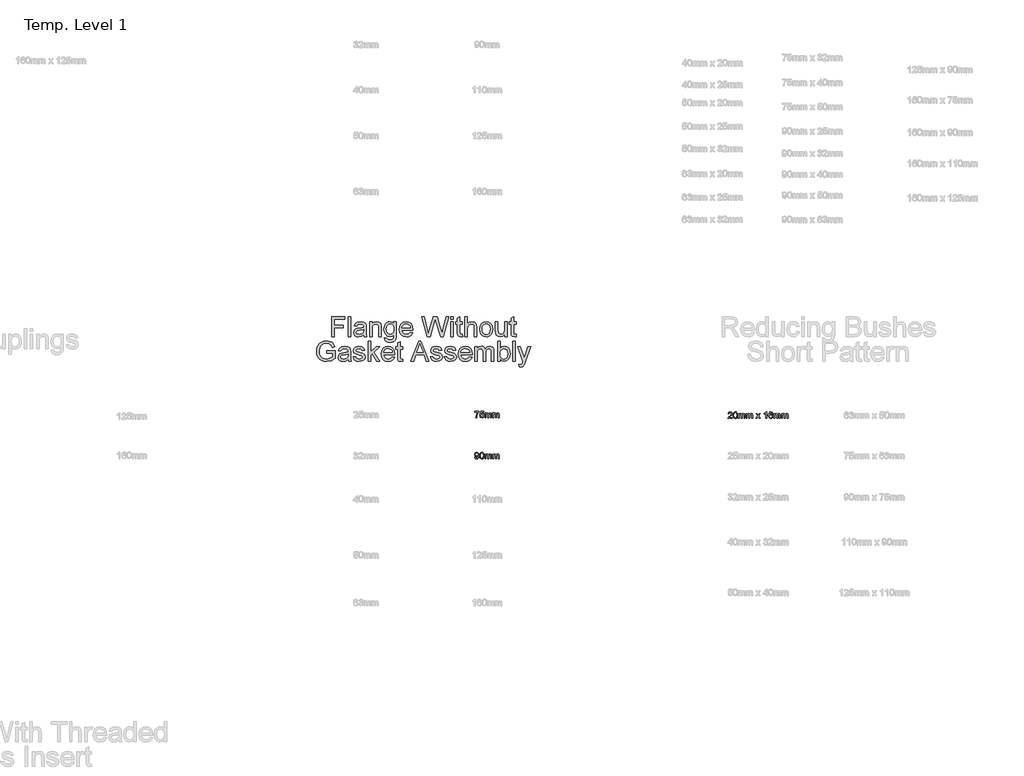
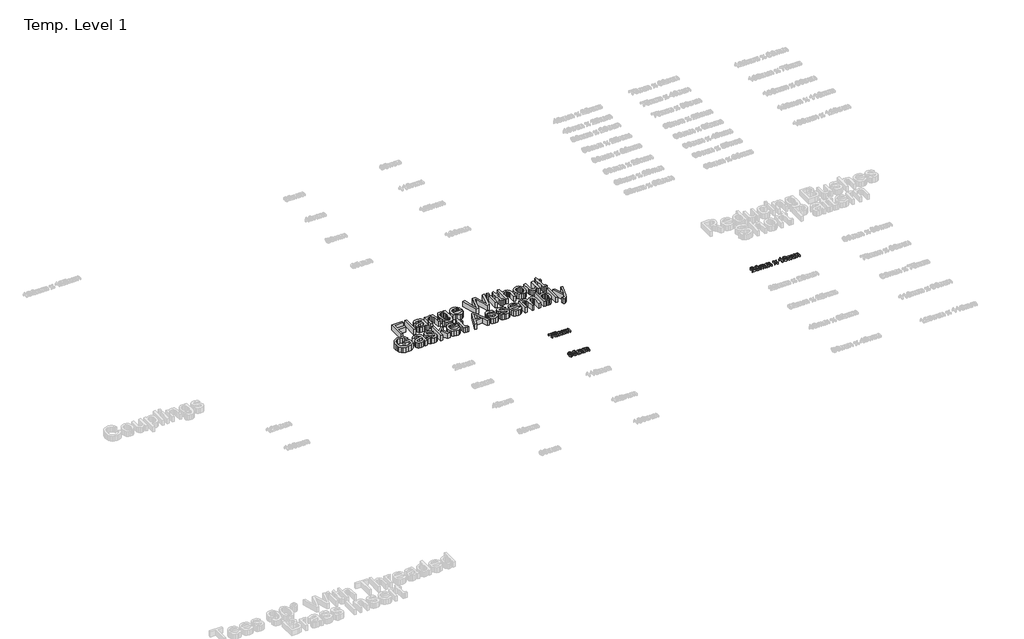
# One storey, part 33 of 62: 4 proxies.
"""IFC4 building model written with IfcOpenShell, lengths in millimetres."""

from ifc_helpers import new_model, si_unit, origin, origin_with_axes, place, context, project, spatial, polyline, outline, extrude, element, save

model = new_model("IFC4")

# Units and contexts
model_context = context("Model", 3, world=origin())
ifc_project = project(units=[si_unit("LENGTHUNIT", "METRE", prefix="MILLI")], contexts=[model_context])

# Site, building, storey
site = spatial("IfcSite", under=ifc_project)
building = spatial("IfcBuilding", under=site)
storey = spatial("IfcBuildingStorey", under=building, Name="Temp. Level 1", Elevation=0.0)

# Proxies
placement = place(None, origin())
element("IfcBuildingElementProxy", 1, Name="150mm Arial", ObjectType="150mm Arial", at=placement, inside=storey, context=model_context, shape_type="SweptSolid", body=[
    extrude(outline(polyline([(20741.8868673, -6979.0446709), (20741.8868673, -6831.3523632), (20841.1176365, -6831.3523632), (20841.1176365, -6849.8139016), (20760.3484058, -6849.8139016), (20760.3484058, -6893.6600555), (20829.579175, -6893.6600555), (20829.579175, -6912.1215939), (20760.3484058, -6912.1215939), (20760.3484058, -6979.0446709), (20741.8868673, -6979.0446709)])), origin_with_axes(), (0.0, 0.0, 1.0), 50.0),
    extrude(outline(polyline([(20864.1945596, -6979.0446709), (20864.1945596, -6831.3523632), (20882.6560981, -6831.3523632), (20882.6560981, -6979.0446709), (20864.1945596, -6979.0446709)])), origin_with_axes(), (0.0, 0.0, 1.0), 50.0),
    extrude(outline(polyline([(20979.579175, -6965.198517), (20961.6765308, -6977.7105362), (20941.8988865, -6981.3523632), (20926.4707014, -6979.1618584), (20915.0899923, -6972.5903439), (20908.0722639, -6962.6113776), (20905.7330212, -6950.198517), (20909.266675, -6935.5951516), (20918.5515308, -6924.9941901), (20931.4782135, -6918.9364978), (20947.4517712, -6916.1600555), (20979.4710019, -6909.8139016), (20979.579175, -6905.7033247), (20978.3081413, -6897.464142), (20974.4950404, -6892.073517), (20965.9673962, -6888.0711132), (20954.0863865, -6886.7369786), (20935.4085019, -6890.2886612), (20926.5022519, -6902.8908247), (20908.0407135, -6900.5831324), (20916.0274923, -6882.5542862), (20932.1092231, -6871.9893824), (20956.4661942, -6868.2754401), (20978.8399923, -6871.5566901), (20991.4782135, -6879.7958728), (20997.1392712, -6892.3259209), (20998.0407135, -6908.479767), (20998.0407135, -6931.448517), (20998.9782135, -6963.5218343), (21002.6560981, -6979.0446709), (20984.1945596, -6979.0446709), (20979.579175, -6965.198517)]), holes=[polyline([(20979.579175, -6928.2754401), (20949.7955212, -6933.9364978), (20933.9121077, -6936.9292862), (20926.7185981, -6941.7970747), (20924.1945596, -6948.9004401), (20929.6933577, -6958.8884209), (20945.829175, -6962.8908247), (20964.5070596, -6958.4737574), (20976.5503288, -6947.7826516), (20979.4710019, -6933.5038055), (20979.579175, -6928.2754401)])]), origin_with_axes(), (0.0, 0.0, 1.0), 50.0),
    extrude(outline(polyline([(21023.4253288, -6979.0446709), (21023.4253288, -6870.5831324), (21041.8868673, -6870.5831324), (21041.8868673, -6885.7273632), (21056.0034538, -6872.6384209), (21075.2762904, -6868.2754401), (21092.7101846, -6871.7910651), (21104.6092231, -6881.0218343), (21110.1440788, -6894.5975555), (21111.1176365, -6912.4461132), (21111.1176365, -6979.0446709), (21092.6560981, -6979.0446709), (21092.6560981, -6914.9340939), (21090.5286942, -6898.5999593), (21083.0106654, -6889.964142), (21070.3363865, -6886.7369786), (21059.5235861, -6888.5488776), (21050.3063385, -6893.9845747), (21043.9917351, -6904.4863776), (21041.8868673, -6921.4965939), (21041.8868673, -6979.0446709), (21023.4253288, -6979.0446709)])), origin_with_axes(), (0.0, 0.0, 1.0), 50.0),
    extrude(outline(polyline([(21131.8868673, -6988.2754401), (21150.3484058, -6990.5831324), (21156.3339827, -7000.3187093), (21174.2546558, -7004.4292862), (21193.1488865, -6999.7778439), (21202.1633096, -6986.7249593), (21203.4253288, -6965.198517), (21190.4265308, -6975.5831324), (21174.579175, -6979.0446709), (21155.5452207, -6975.0152237), (21141.3520115, -6962.9268824), (21132.5223841, -6945.2045266), (21129.579175, -6924.2730362), (21134.8616269, -6895.6612574), (21141.3249683, -6884.0461733), (21150.1500885, -6875.4148632), (21161.0350043, -6870.0602959), (21173.6777327, -6868.2754401), (21190.1470837, -6872.3139016), (21203.4253288, -6884.4292862), (21203.4253288, -6870.5831324), (21221.8868673, -6870.5831324), (21221.8868673, -6964.2249593), (21220.6248481, -6985.8460531), (21216.8387904, -7000.0843343), (21210.3168553, -7009.5269425), (21200.8472038, -7016.761017), (21188.6371678, -7021.3583728), (21173.8940788, -7022.8908247), (21156.7170957, -7020.7318704), (21143.1909538, -7014.2550074), (21134.5145716, -7003.4422069), (21131.8868673, -6988.2754401)]), holes=[polyline([(21148.0407135, -6923.011017), (21150.0103649, -6939.9446108), (21155.9193192, -6951.5867382), (21164.8030332, -6958.3340338), (21175.6969635, -6960.5831324), (21186.5097639, -6958.3475555), (21195.43855, -6951.6408247), (21201.4286341, -6940.1474353), (21203.4253288, -6923.5518824), (21201.3700404, -6907.5467742), (21195.204175, -6896.0218343), (21186.1446798, -6889.0581925), (21175.4085019, -6886.7369786), (21164.8661341, -6889.0221348), (21156.0274923, -6895.8776036), (21150.0374082, -6907.2312694), (21148.0407135, -6923.011017)])]), origin_with_axes(), (0.0, 0.0, 1.0), 50.0),
    extrude(outline(polyline([(21325.516675, -6946.7369786), (21343.6176365, -6949.0446709), (21337.0957014, -6962.683493), (21326.68855, -6972.8788055), (21312.6305572, -6979.2339737), (21295.1560981, -6981.3523632), (21273.4944394, -6977.6970146), (21256.8267712, -6966.7309689), (21246.1987663, -6949.1663656), (21242.6560981, -6925.7153439), (21246.234824, -6901.4755603), (21256.9710019, -6883.3475555), (21273.4133096, -6872.0434689), (21294.110425, -6868.2754401), (21314.1630091, -6872.0344545), (21330.1861462, -6883.3114978), (21340.6924563, -6901.4034449), (21344.1945596, -6925.6071709), (21344.0863865, -6930.5831324), (21261.1176365, -6930.5831324), (21264.3132495, -6944.402243), (21271.7366269, -6954.5614978), (21282.4502688, -6960.808493), (21295.516675, -6962.8908247), (21313.6176365, -6959.0326516), (21325.516675, -6946.7369786)]), holes=[polyline([(21261.1176365, -6912.1215939), (21325.7330212, -6912.1215939), (21323.236026, -6902.3679882), (21318.3411942, -6895.3908247), (21307.5779731, -6888.9004401), (21294.0383096, -6886.7369786), (21281.5938986, -6888.4632406), (21271.3039346, -6893.6420266), (21264.1509899, -6901.7144425), (21261.1176365, -6912.1215939)])]), origin_with_axes(), (0.0, 0.0, 1.0), 50.0),
    extrude(outline(polyline([(21449.0863865, -6979.0446709), (21408.8099442, -6831.3523632), (21427.8484058, -6831.3523632), (21451.2137904, -6928.4196709), (21458.4253288, -6958.3836132), (21466.141675, -6931.8812093), (21495.4205212, -6831.3523632), (21522.860425, -6831.3523632), (21544.1344635, -6904.2249593), (21559.9637904, -6958.3836132), (21566.9589827, -6929.2850555), (21590.5407135, -6831.3523632), (21609.579175, -6831.3523632), (21569.266675, -6979.0446709), (21549.5431173, -6979.0446709), (21514.1344635, -6865.1023632), (21509.1945596, -6849.2009209), (21503.641675, -6868.3475555), (21471.3700404, -6979.0446709), (21449.0863865, -6979.0446709)])), origin_with_axes(), (0.0, 0.0, 1.0), 50.0),
    extrude(outline(polyline([(21625.7330212, -6849.8139016), (21625.7330212, -6831.3523632), (21644.1945596, -6831.3523632), (21644.1945596, -6849.8139016), (21625.7330212, -6849.8139016)])), origin_with_axes(), (0.0, 0.0, 1.0), 50.0),
    extrude(outline(polyline([(21625.7330212, -6979.0446709), (21625.7330212, -6870.5831324), (21644.1945596, -6870.5831324), (21644.1945596, -6979.0446709), (21625.7330212, -6979.0446709)])), origin_with_axes(), (0.0, 0.0, 1.0), 50.0),
    extrude(outline(polyline([(21711.1176365, -6963.6480362), (21713.4253288, -6979.5855362), (21699.6152327, -6981.3523632), (21684.1464827, -6978.2874593), (21676.4301365, -6970.2465939), (21674.1945596, -6949.2970747), (21674.1945596, -6889.0446709), (21660.3484058, -6889.0446709), (21660.3484058, -6870.5831324), (21674.1945596, -6870.5831324), (21674.1945596, -6844.2249593), (21692.6560981, -6833.3715939), (21692.6560981, -6870.5831324), (21711.1176365, -6870.5831324), (21711.1176365, -6889.0446709), (21692.6560981, -6889.0446709), (21692.6560981, -6948.7562093), (21693.6296558, -6958.2754401), (21696.7847038, -6961.6468343), (21703.0767712, -6962.8908247), (21711.1176365, -6963.6480362)])), origin_with_axes(), (0.0, 0.0, 1.0), 50.0),
    extrude(outline(polyline([(21729.579175, -6979.0446709), (21729.579175, -6831.3523632), (21748.0407135, -6831.3523632), (21748.0407135, -6885.6552478), (21762.4367471, -6872.620392), (21780.1681173, -6868.2754401), (21800.9012904, -6873.0170266), (21813.485425, -6886.1239978), (21817.2714827, -6910.3908247), (21817.2714827, -6979.0446709), (21798.8099442, -6979.0446709), (21798.8099442, -6912.3018824), (21797.3405933, -6900.745392), (21792.9325404, -6892.8307286), (21785.829175, -6888.2604161), (21776.2738865, -6886.7369786), (21761.1476846, -6890.8475555), (21751.0515308, -6901.9893824), (21748.0407135, -6921.4244786), (21748.0407135, -6979.0446709), (21729.579175, -6979.0446709)])), origin_with_axes(), (0.0, 0.0, 1.0), 50.0),
    extrude(outline(polyline([(21838.0407135, -6924.8139016), (21842.0341029, -6898.6630603), (21854.0142712, -6880.2826516), (21868.8159538, -6871.277243), (21886.5383096, -6868.2754401), (21905.9328409, -6871.9307887), (21921.4241269, -6882.8968343), (21931.5788745, -6900.3081925), (21934.9637904, -6923.2994786), (21933.4673962, -6941.9503199), (21928.9782135, -6956.1480362), (21921.6269514, -6966.7805483), (21911.5443192, -6974.7357766), (21899.5686582, -6979.6982165), (21886.5383096, -6981.3523632), (21866.9094034, -6977.7105362), (21851.4361462, -6966.7850555), (21841.3895716, -6949.0086132), (21838.0407135, -6924.8139016)]), holes=[polyline([(21856.5022519, -6924.7778439), (21858.6386702, -6941.4860771), (21865.047925, -6953.3896228), (21874.6933577, -6960.5155242), (21886.5383096, -6962.8908247), (21898.329175, -6960.5020026), (21907.9565788, -6953.3355362), (21914.3658337, -6941.2742382), (21916.5022519, -6924.2009209), (21914.352312, -6907.9794665), (21907.9024923, -6896.2381805), (21898.2615668, -6889.112279), (21886.5383096, -6886.7369786), (21874.6933577, -6889.1032646), (21865.047925, -6896.2021228), (21858.6386702, -6908.0786252), (21856.5022519, -6924.7778439)])]), origin_with_axes(), (0.0, 0.0, 1.0), 50.0),
    extrude(outline(polyline([(22024.9637904, -6979.0446709), (22024.9637904, -6960.4028439), (22010.5046558, -6976.1149834), (21991.6464827, -6981.3523632), (21974.2847038, -6977.6744786), (21962.31355, -6968.4437093), (21956.8147519, -6954.8499593), (21955.7330212, -6937.6864978), (21955.7330212, -6870.5831324), (21974.1945596, -6870.5831324), (21974.1945596, -6928.9965939), (21975.3123481, -6947.8187093), (21982.6140308, -6958.870392), (21996.3700404, -6962.8908247), (22011.7847038, -6958.7802478), (22021.9710019, -6947.5843343), (22024.9637904, -6927.0134209), (22024.9637904, -6870.5831324), (22043.4253288, -6870.5831324), (22043.4253288, -6979.0446709), (22024.9637904, -6979.0446709)])), origin_with_axes(), (0.0, 0.0, 1.0), 50.0),
    extrude(outline(polyline([(22108.0407135, -6963.6480362), (22110.3484058, -6979.5855362), (22096.5383096, -6981.3523632), (22081.0695596, -6978.2874593), (22073.3532135, -6970.2465939), (22071.1176365, -6949.2970747), (22071.1176365, -6889.0446709), (22057.2714827, -6889.0446709), (22057.2714827, -6870.5831324), (22071.1176365, -6870.5831324), (22071.1176365, -6844.2249593), (22089.579175, -6833.3715939), (22089.579175, -6870.5831324), (22108.0407135, -6870.5831324), (22108.0407135, -6889.0446709), (22089.579175, -6889.0446709), (22089.579175, -6948.7562093), (22090.5527327, -6958.2754401), (22093.7077808, -6961.6468343), (22099.9998481, -6962.8908247), (22108.0407135, -6963.6480362)])), origin_with_axes(), (0.0, 0.0, 1.0), 50.0),
    extrude(outline(polyline([(20707.2714827, -7103.6600555), (20707.2714827, -7085.198517), (20767.2714827, -7085.198517), (20767.2714827, -7140.4028439), (20737.6500885, -7157.8187093), (20706.3339827, -7163.6600555), (20685.6233457, -7161.3388415), (20666.9048962, -7154.3751997), (20651.3550163, -7143.0125194), (20640.1500885, -7127.4941901), (20633.3757495, -7108.8794064), (20631.1176365, -7088.2273632), (20633.3667351, -7067.4265819), (20640.1140308, -7048.0771228), (20651.0800764, -7031.846654), (20665.985425, -7020.4028439), (20684.1404731, -7013.6149834), (20704.8556173, -7011.3523632), (20733.7378288, -7016.5987574), (20745.2537543, -7022.8727959), (20753.9842231, -7031.2021228), (20765.1440788, -7055.6312093), (20748.1248481, -7060.4268824), (20739.7053769, -7043.3535651), (20725.3183577, -7033.5098151), (20704.5671558, -7029.8139016), (20680.9313385, -7033.7982766), (20664.8496077, -7044.2550074), (20655.3484058, -7058.479767), (20649.579175, -7087.4701516), (20651.3144514, -7105.1248992), (20656.5202808, -7119.651642), (20665.0389106, -7130.9467141), (20676.7125885, -7138.9064497), (20690.3739466, -7143.6255002), (20704.8556173, -7145.198517), (20730.1140308, -7140.4569305), (20748.8099442, -7130.3427478), (20748.8099442, -7103.6600555), (20707.2714827, -7103.6600555)])), origin_with_axes(), (0.0, 0.0, 1.0), 50.0),
    extrude(outline(polyline([(20864.1945596, -7147.5062093), (20846.2919154, -7160.0182286), (20826.5142712, -7163.6600555), (20811.0860861, -7161.4695507), (20799.7053769, -7154.8980362), (20792.6876486, -7144.9190699), (20790.3484058, -7132.5062093), (20793.8820596, -7117.9028439), (20803.1669154, -7107.3018824), (20816.0935981, -7101.2441901), (20832.0671558, -7098.4677478), (20864.0863865, -7092.1215939), (20864.1945596, -7088.011017), (20862.923526, -7079.7718343), (20859.110425, -7074.3812093), (20850.5827808, -7070.3788055), (20838.7017712, -7069.0446709), (20820.0238865, -7072.5963536), (20811.1176365, -7085.198517), (20792.6560981, -7082.8908247), (20800.6428769, -7064.8619786), (20816.7246077, -7054.2970747), (20841.0815788, -7050.5831324), (20863.4553769, -7053.8643824), (20876.0935981, -7062.1035651), (20881.7546558, -7074.6336132), (20882.6560981, -7090.7874593), (20882.6560981, -7113.7562093), (20883.5935981, -7145.8295266), (20887.2714827, -7161.3523632), (20868.8099442, -7161.3523632), (20864.1945596, -7147.5062093)]), holes=[polyline([(20864.1945596, -7110.5831324), (20834.4109058, -7116.2441901), (20818.5274923, -7119.2369786), (20811.3339827, -7124.104767), (20808.8099442, -7131.2081324), (20814.3087423, -7141.1961132), (20830.4445596, -7145.198517), (20849.1224442, -7140.7814497), (20861.1657135, -7130.0903439), (20864.0863865, -7115.8114978), (20864.1945596, -7110.5831324)])]), origin_with_axes(), (0.0, 0.0, 1.0), 50.0),
    extrude(outline(polyline([(20901.1176365, -7129.0446709), (20919.579175, -7126.7369786), (20922.4908337, -7134.6336132), (20928.1248481, -7140.4389016), (20947.704175, -7145.198517), (20966.5262904, -7140.8355362), (20972.6560981, -7130.5951516), (20966.4902327, -7122.3018824), (20947.4878288, -7117.0374593), (20919.6873481, -7108.0050074), (20907.5539346, -7097.4581324), (20903.4253288, -7082.5663055), (20906.7426365, -7068.8102959), (20915.7931173, -7058.2994786), (20927.5298962, -7052.8367382), (20943.4133096, -7050.5831324), (20965.8772519, -7054.2069305), (20980.1560981, -7064.0146228), (20986.5022519, -7080.5831324), (20968.0407135, -7082.8908247), (20961.0996077, -7072.7045266), (20944.8556173, -7069.0446709), (20927.1873481, -7072.542267), (20921.8868673, -7080.6913055), (20924.0863865, -7086.0639016), (20930.9734058, -7090.1384209), (20946.8748481, -7094.0687093), (20973.9722038, -7102.7586132), (20986.5563385, -7112.6023632), (20991.1176365, -7128.6480362), (20985.7630692, -7146.3163055), (20970.3123481, -7159.1348151), (20947.4517712, -7163.6600555), (20928.8369875, -7161.4785651), (20915.2522519, -7154.9340939), (20906.1837423, -7144.0987574), (20901.1176365, -7129.0446709)])), origin_with_axes(), (0.0, 0.0, 1.0), 50.0),
    extrude(outline(polyline([(21011.8868673, -7161.3523632), (21011.8868673, -7013.6600555), (21030.3484058, -7013.6600555), (21030.3484058, -7093.0230362), (21071.7426365, -7052.8908247), (21097.2714827, -7052.8908247), (21055.3724442, -7093.5278439), (21099.579175, -7161.3523632), (21078.016675, -7161.3523632), (21042.1392712, -7106.3643824), (21030.3484058, -7117.7946709), (21030.3484058, -7161.3523632), (21011.8868673, -7161.3523632)])), origin_with_axes(), (0.0, 0.0, 1.0), 50.0),
    extrude(outline(polyline([(21191.6705212, -7129.0446709), (21209.7714827, -7131.3523632), (21203.2495476, -7144.9911853), (21192.8423962, -7155.1864978), (21178.7844034, -7161.5416661), (21161.3099442, -7163.6600555), (21139.6482856, -7160.0047069), (21122.9806173, -7149.0386612), (21112.3526125, -7131.4740579), (21108.8099442, -7108.0230362), (21112.3886702, -7083.7832526), (21123.1248481, -7065.6552478), (21139.5671558, -7054.3511612), (21160.2642712, -7050.5831324), (21180.3168553, -7054.3421468), (21196.3399923, -7065.6191901), (21206.8463024, -7083.7111372), (21210.3484058, -7107.9148632), (21210.2402327, -7112.8908247), (21127.2714827, -7112.8908247), (21130.4670957, -7126.7099353), (21137.8904731, -7136.8691901), (21148.6041149, -7143.1161853), (21161.6705212, -7145.198517), (21179.7714827, -7141.3403439), (21191.6705212, -7129.0446709)]), holes=[polyline([(21127.2714827, -7094.4292862), (21191.8868673, -7094.4292862), (21189.3898721, -7084.6756805), (21184.4950404, -7077.698517), (21173.7318192, -7071.2081324), (21160.1921558, -7069.0446709), (21147.7477447, -7070.7709329), (21137.4577808, -7075.9497189), (21130.3048361, -7084.0221348), (21127.2714827, -7094.4292862)])]), origin_with_axes(), (0.0, 0.0, 1.0), 50.0),
    extrude(outline(polyline([(21268.0407135, -7145.9557286), (21270.3484058, -7161.8932286), (21256.5383096, -7163.6600555), (21241.0695596, -7160.5951516), (21233.3532135, -7152.5542862), (21231.1176365, -7131.604767), (21231.1176365, -7071.3523632), (21217.2714827, -7071.3523632), (21217.2714827, -7052.8908247), (21231.1176365, -7052.8908247), (21231.1176365, -7026.5326516), (21249.579175, -7015.6792862), (21249.579175, -7052.8908247), (21268.0407135, -7052.8908247), (21268.0407135, -7071.3523632), (21249.579175, -7071.3523632), (21249.579175, -7131.0639016), (21250.5527327, -7140.5831324), (21253.7077808, -7143.9545266), (21259.9998481, -7145.198517), (21268.0407135, -7145.9557286)])), origin_with_axes(), (0.0, 0.0, 1.0), 50.0),
    extrude(outline(polyline([(21329.3027327, -7161.3523632), (21388.2570596, -7013.6600555), (21403.9782135, -7013.6600555), (21462.9325404, -7161.3523632), (21443.4253288, -7161.3523632), (21426.5142712, -7115.198517), (21365.6849442, -7115.198517), (21348.8099442, -7161.3523632), (21329.3027327, -7161.3523632)]), holes=[polyline([(21372.4637904, -7096.7369786), (21419.7714827, -7096.7369786), (21406.4661942, -7060.4268824), (21396.1176365, -7032.1215939), (21386.922925, -7057.2538055), (21372.4637904, -7096.7369786)])]), origin_with_axes(), (0.0, 0.0, 1.0), 50.0),
    extrude(outline(polyline([(21473.4253288, -7129.0446709), (21491.8868673, -7126.7369786), (21494.798526, -7134.6336132), (21500.4325404, -7140.4389016), (21520.0118673, -7145.198517), (21538.8339827, -7140.8355362), (21544.9637904, -7130.5951516), (21538.797925, -7122.3018824), (21519.7955212, -7117.0374593), (21491.9950404, -7108.0050074), (21479.8616269, -7097.4581324), (21475.7330212, -7082.5663055), (21479.0503288, -7068.8102959), (21488.1008096, -7058.2994786), (21499.8375885, -7052.8367382), (21515.7210019, -7050.5831324), (21538.1849442, -7054.2069305), (21552.4637904, -7064.0146228), (21558.8099442, -7080.5831324), (21540.3484058, -7082.8908247), (21533.4073, -7072.7045266), (21517.1633096, -7069.0446709), (21499.4950404, -7072.542267), (21494.1945596, -7080.6913055), (21496.3940788, -7086.0639016), (21503.2810981, -7090.1384209), (21519.1825404, -7094.0687093), (21546.2798962, -7102.7586132), (21558.8640308, -7112.6023632), (21563.4253288, -7128.6480362), (21558.0707615, -7146.3163055), (21542.6200404, -7159.1348151), (21519.7594635, -7163.6600555), (21501.1446798, -7161.4785651), (21487.5599442, -7154.9340939), (21478.4914346, -7144.0987574), (21473.4253288, -7129.0446709)])), origin_with_axes(), (0.0, 0.0, 1.0), 50.0),
    extrude(outline(polyline([(21577.2714827, -7129.0446709), (21595.7330212, -7126.7369786), (21598.6446798, -7134.6336132), (21604.2786942, -7140.4389016), (21623.8580212, -7145.198517), (21642.6801365, -7140.8355362), (21648.8099442, -7130.5951516), (21642.6440788, -7122.3018824), (21623.641675, -7117.0374593), (21595.8411942, -7108.0050074), (21583.7077808, -7097.4581324), (21579.579175, -7082.5663055), (21582.8964827, -7068.8102959), (21591.9469635, -7058.2994786), (21603.6837423, -7052.8367382), (21619.5671558, -7050.5831324), (21642.0310981, -7054.2069305), (21656.3099442, -7064.0146228), (21662.6560981, -7080.5831324), (21644.1945596, -7082.8908247), (21637.2534538, -7072.7045266), (21621.0094635, -7069.0446709), (21603.3411942, -7072.542267), (21598.0407135, -7080.6913055), (21600.2402327, -7086.0639016), (21607.1272519, -7090.1384209), (21623.0286942, -7094.0687093), (21650.12605, -7102.7586132), (21662.7101846, -7112.6023632), (21667.2714827, -7128.6480362), (21661.9169154, -7146.3163055), (21646.4661942, -7159.1348151), (21623.6056173, -7163.6600555), (21604.9908337, -7161.4785651), (21591.4060981, -7154.9340939), (21582.3375885, -7144.0987574), (21577.2714827, -7129.0446709)])), origin_with_axes(), (0.0, 0.0, 1.0), 50.0),
    extrude(outline(polyline([(21763.9782135, -7129.0446709), (21782.079175, -7131.3523632), (21775.5572399, -7144.9911853), (21765.1500885, -7155.1864978), (21751.0920957, -7161.5416661), (21733.6176365, -7163.6600555), (21711.9559779, -7160.0047069), (21695.2883096, -7149.0386612), (21684.6603048, -7131.4740579), (21681.1176365, -7108.0230362), (21684.6963625, -7083.7832526), (21695.4325404, -7065.6552478), (21711.8748481, -7054.3511612), (21732.5719635, -7050.5831324), (21752.6245476, -7054.3421468), (21768.6476846, -7065.6191901), (21779.1539947, -7083.7111372), (21782.6560981, -7107.9148632), (21782.547925, -7112.8908247), (21699.579175, -7112.8908247), (21702.774788, -7126.7099353), (21710.1981654, -7136.8691901), (21720.9118072, -7143.1161853), (21733.9782135, -7145.198517), (21752.079175, -7141.3403439), (21763.9782135, -7129.0446709)]), holes=[polyline([(21699.579175, -7094.4292862), (21764.1945596, -7094.4292862), (21761.6975644, -7084.6756805), (21756.8027327, -7077.698517), (21746.0395115, -7071.2081324), (21732.4998481, -7069.0446709), (21720.055437, -7070.7709329), (21709.7654731, -7075.9497189), (21702.6125284, -7084.0221348), (21699.579175, -7094.4292862)])]), origin_with_axes(), (0.0, 0.0, 1.0), 50.0),
    extrude(outline(polyline([(21801.1176365, -7161.3523632), (21801.1176365, -7052.8908247), (21819.579175, -7052.8908247), (21819.579175, -7070.7393824), (21832.2714827, -7056.1179882), (21850.3363865, -7050.5831324), (21860.6038144, -7051.9938896), (21868.8339827, -7056.2261612), (21879.0022519, -7072.0374593), (21893.4073, -7055.9467141), (21911.5984058, -7050.5831324), (21925.4761101, -7052.8142021), (21935.7390308, -7059.5074112), (21942.0806774, -7070.8430483), (21944.1945596, -7087.0014016), (21944.1945596, -7161.3523632), (21925.7330212, -7161.3523632), (21925.7330212, -7094.9340939), (21924.0202808, -7079.5194305), (21917.8183577, -7071.9292862), (21907.2714827, -7069.0446709), (21897.2699803, -7070.8926276), (21889.1164346, -7076.4364978), (21883.6942591, -7086.0548872), (21881.8868673, -7100.1264016), (21881.8868673, -7161.3523632), (21863.4253288, -7161.3523632), (21863.4253288, -7092.8788055), (21859.1524923, -7074.9941901), (21853.5139707, -7070.5320507), (21845.1440788, -7069.0446709), (21831.4782135, -7073.011017), (21822.391675, -7084.6215939), (21819.579175, -7106.6528439), (21819.579175, -7161.3523632), (21801.1176365, -7161.3523632)])), origin_with_axes(), (0.0, 0.0, 1.0), 50.0),
    extrude(outline(polyline([(21990.3484058, -7161.3523632), (21971.8868673, -7161.3523632), (21971.8868673, -7013.6600555), (21990.3484058, -7013.6600555), (21990.3484058, -7068.4316901), (22003.2750885, -7055.0452718), (22019.3387904, -7050.5831324), (22037.8363865, -7054.6035651), (22052.1873481, -7065.9076516), (22061.0034538, -7083.4857766), (22064.1945596, -7105.4989978), (22060.8907736, -7130.1444305), (22050.9794154, -7148.479767), (22036.4346438, -7159.8649834), (22019.2306173, -7163.6600555), (22002.8153529, -7158.7652237), (21990.3484058, -7144.0807286), (21990.3484058, -7161.3523632)]), holes=[polyline([(21990.3484058, -7106.3643824), (21991.610425, -7121.761017), (21995.3964827, -7132.1816901), (22005.0689587, -7141.9443103), (22017.6440788, -7145.198517), (22028.2991269, -7142.8006805), (22037.4036942, -7135.6071709), (22043.6506894, -7123.6630603), (22045.7330212, -7107.0134209), (22043.7363264, -7090.120392), (22037.7462423, -7078.3114978), (22028.9256293, -7071.3613776), (22018.4373481, -7069.0446709), (22007.7823, -7071.4425074), (21998.6777327, -7078.636017), (21992.4307375, -7090.3637814), (21990.3484058, -7106.3643824)])]), origin_with_axes(), (0.0, 0.0, 1.0), 50.0),
    extrude(outline(polyline([(22084.9637904, -7161.3523632), (22084.9637904, -7013.6600555), (22103.4253288, -7013.6600555), (22103.4253288, -7161.3523632), (22084.9637904, -7161.3523632)])), origin_with_axes(), (0.0, 0.0, 1.0), 50.0),
    extrude(outline(polyline([(22131.1176365, -7202.8908247), (22128.8099442, -7185.1143824), (22138.1849442, -7186.7369786), (22146.9469635, -7184.6997189), (22152.3195596, -7179.0206324), (22157.3676365, -7165.4268824), (22158.8099442, -7160.9557286), (22119.579175, -7052.8908247), (22139.0503288, -7052.8908247), (22159.8556173, -7113.1071709), (22167.1032135, -7137.1937093), (22174.3508096, -7115.9196709), (22195.7330212, -7052.8908247), (22215.0599442, -7052.8908247), (22177.3075404, -7163.948517), (22167.4998481, -7188.0350555), (22156.7907135, -7201.0518824), (22142.4036942, -7205.198517), (22131.1176365, -7202.8908247)])), origin_with_axes(), (0.0, 0.0, 1.0), 50.0),
])
element("IfcBuildingElementProxy", 2, Name="50mm Arial", ObjectType="50mm Arial", at=placement, inside=storey, context=model_context, shape_type="SweptSolid", body=[
    extrude(outline(polyline([(21801.2361186, -7537.8908247), (21801.2361186, -7531.7369786), (21833.5438109, -7531.7369786), (21833.5438109, -7536.7129401), (21824.3791475, -7549.9521228), (21817.3659263, -7566.8211132), (21815.0822725, -7580.198517), (21808.9284263, -7580.198517), (21811.3743398, -7566.3163055), (21818.0870802, -7550.6251997), (21827.3899648, -7537.8908247), (21801.2361186, -7537.8908247)])), origin_with_axes(), (0.0, 0.0, 1.0), 15.0),
    extrude(outline(polyline([(21838.9284263, -7567.1215939), (21845.0822725, -7566.3523632), (21848.183234, -7572.6925074), (21854.6135225, -7574.8139016), (21862.3298686, -7571.8631805), (21865.0822725, -7564.0326516), (21862.5041475, -7556.7249593), (21854.7096763, -7554.0446709), (21849.3070321, -7555.1143824), (21845.8515033, -7557.8908247), (21839.6976571, -7557.1215939), (21845.0822725, -7531.7369786), (21868.9284263, -7531.7369786), (21868.9284263, -7537.8908247), (21850.058234, -7537.8908247), (21847.4260225, -7551.448517), (21856.4284263, -7547.8908247), (21866.9512629, -7552.3018824), (21871.2361186, -7563.6480362), (21867.3779456, -7575.0663055), (21861.8370802, -7579.4923872), (21854.589484, -7580.9677478), (21843.730109, -7577.1756805), (21838.9284263, -7567.1215939)])), origin_with_axes(), (0.0, 0.0, 1.0), 15.0),
    extrude(outline(polyline([(21878.1591956, -7580.198517), (21878.1591956, -7544.0446709), (21884.3130417, -7544.0446709), (21884.3130417, -7549.9941901), (21888.5438109, -7545.120392), (21894.5654456, -7543.2754401), (21900.7313109, -7545.1564497), (21904.120734, -7550.4268824), (21908.9224167, -7545.0633007), (21914.9861186, -7543.2754401), (21923.0329936, -7546.2501997), (21925.8515033, -7555.4148632), (21925.8515033, -7580.198517), (21919.6976571, -7580.198517), (21919.6976571, -7558.0590939), (21919.1267436, -7552.9208728), (21917.0594359, -7550.3908247), (21913.5438109, -7549.4292862), (21907.4921283, -7551.8932286), (21905.0822725, -7559.7898632), (21905.0822725, -7580.198517), (21898.9284263, -7580.198517), (21898.9284263, -7557.3739978), (21897.5041475, -7551.4124593), (21892.8346763, -7549.4292862), (21888.2793879, -7550.7514016), (21885.2505417, -7554.6215939), (21884.3130417, -7561.9653439), (21884.3130417, -7580.198517), (21878.1591956, -7580.198517)])), origin_with_axes(), (0.0, 0.0, 1.0), 15.0),
    extrude(outline(polyline([(21935.0822725, -7580.198517), (21935.0822725, -7544.0446709), (21941.2361186, -7544.0446709), (21941.2361186, -7549.9941901), (21945.4668879, -7545.120392), (21951.4885225, -7543.2754401), (21957.6543879, -7545.1564497), (21961.0438109, -7550.4268824), (21965.8454936, -7545.0633007), (21971.9091956, -7543.2754401), (21979.9560706, -7546.2501997), (21982.7745802, -7555.4148632), (21982.7745802, -7580.198517), (21976.620734, -7580.198517), (21976.620734, -7558.0590939), (21976.0498206, -7552.9208728), (21973.9825129, -7550.3908247), (21970.4668879, -7549.4292862), (21964.4152052, -7551.8932286), (21962.0053494, -7559.7898632), (21962.0053494, -7580.198517), (21955.8515033, -7580.198517), (21955.8515033, -7557.3739978), (21954.4272244, -7551.4124593), (21949.7577533, -7549.4292862), (21945.2024648, -7550.7514016), (21942.1736186, -7554.6215939), (21941.2361186, -7561.9653439), (21941.2361186, -7580.198517), (21935.0822725, -7580.198517)])), origin_with_axes(), (0.0, 0.0, 1.0), 15.0),
])
element("IfcBuildingElementProxy", 3, Name="50mm Arial", ObjectType="50mm Arial", at=placement, inside=storey, context=model_context, shape_type="SweptSolid", body=[
    extrude(outline(polyline([(21802.0053494, -7872.8908247), (21808.1591956, -7872.1215939), (21810.9236186, -7877.9929882), (21816.1640033, -7879.8139016), (21821.1459744, -7878.6420266), (21824.5233783, -7875.511017), (21826.5365994, -7870.1624593), (21827.4260225, -7863.0230362), (21822.4680898, -7866.4845747), (21815.7192917, -7868.2754401), (21805.4368398, -7863.9004401), (21801.2361186, -7852.3739978), (21805.6411667, -7840.4749593), (21816.6808302, -7835.9677478), (21825.448859, -7838.5398632), (21831.4825129, -7845.8715939), (21833.5438109, -7859.6456324), (21831.4885225, -7874.5915459), (21825.3767436, -7883.0590939), (21815.8755417, -7885.9677478), (21806.4164071, -7882.5362574), (21802.0053494, -7872.8908247)]), holes=[polyline([(21827.3899648, -7852.229767), (21824.7337148, -7844.8499593), (21817.6784263, -7842.1215939), (21810.2745802, -7845.0602959), (21807.3899648, -7852.6744786), (21810.1183302, -7859.495392), (21817.5101571, -7862.1215939), (21824.6075129, -7859.495392), (21827.3899648, -7852.229767)])]), origin_with_axes(), (0.0, 0.0, 1.0), 15.0),
    extrude(outline(polyline([(21838.9284263, -7860.979767), (21840.7373206, -7846.8151036), (21846.1099167, -7838.6480362), (21855.0822725, -7835.9677478), (21862.2697725, -7837.5542862), (21867.2337148, -7842.1276036), (21870.1183302, -7849.4112574), (21871.2361186, -7860.979767), (21869.4452533, -7875.0843343), (21864.0906859, -7883.2694305), (21855.0822725, -7885.9677478), (21843.8322725, -7881.2802478), (21840.1543879, -7872.9539257), (21838.9284263, -7860.979767)]), holes=[polyline([(21845.0822725, -7860.9677478), (21847.9668879, -7876.2501997), (21855.0822725, -7879.8139016), (21862.1976571, -7876.2381805), (21865.0822725, -7860.9677478), (21862.2938109, -7845.8595747), (21855.0101571, -7842.1215939), (21848.0630417, -7845.4148632), (21845.0822725, -7860.9677478)])]), origin_with_axes(), (0.0, 0.0, 1.0), 15.0),
    extrude(outline(polyline([(21878.1591956, -7885.198517), (21878.1591956, -7849.0446709), (21884.3130417, -7849.0446709), (21884.3130417, -7854.9941901), (21888.5438109, -7850.120392), (21894.5654456, -7848.2754401), (21900.7313109, -7850.1564497), (21904.120734, -7855.4268824), (21908.9224167, -7850.0633007), (21914.9861186, -7848.2754401), (21923.0329936, -7851.2501997), (21925.8515033, -7860.4148632), (21925.8515033, -7885.198517), (21919.6976571, -7885.198517), (21919.6976571, -7863.0590939), (21919.1267436, -7857.9208728), (21917.0594359, -7855.3908247), (21913.5438109, -7854.4292862), (21907.4921283, -7856.8932286), (21905.0822725, -7864.7898632), (21905.0822725, -7885.198517), (21898.9284263, -7885.198517), (21898.9284263, -7862.3739978), (21897.5041475, -7856.4124593), (21892.8346763, -7854.4292862), (21888.2793879, -7855.7514016), (21885.2505417, -7859.6215939), (21884.3130417, -7866.9653439), (21884.3130417, -7885.198517), (21878.1591956, -7885.198517)])), origin_with_axes(), (0.0, 0.0, 1.0), 15.0),
    extrude(outline(polyline([(21935.0822725, -7885.198517), (21935.0822725, -7849.0446709), (21941.2361186, -7849.0446709), (21941.2361186, -7854.9941901), (21945.4668879, -7850.120392), (21951.4885225, -7848.2754401), (21957.6543879, -7850.1564497), (21961.0438109, -7855.4268824), (21965.8454936, -7850.0633007), (21971.9091956, -7848.2754401), (21979.9560706, -7851.2501997), (21982.7745802, -7860.4148632), (21982.7745802, -7885.198517), (21976.620734, -7885.198517), (21976.620734, -7863.0590939), (21976.0498206, -7857.9208728), (21973.9825129, -7855.3908247), (21970.4668879, -7854.4292862), (21964.4152052, -7856.8932286), (21962.0053494, -7864.7898632), (21962.0053494, -7885.198517), (21955.8515033, -7885.198517), (21955.8515033, -7862.3739978), (21954.4272244, -7856.4124593), (21949.7577533, -7854.4292862), (21945.2024648, -7855.7514016), (21942.1736186, -7859.6215939), (21941.2361186, -7866.9653439), (21941.2361186, -7885.198517), (21935.0822725, -7885.198517)])), origin_with_axes(), (0.0, 0.0, 1.0), 15.0),
])
element("IfcBuildingElementProxy", 4, Name="50mm Arial", ObjectType="50mm Arial", at=placement, inside=storey, context=model_context, shape_type="SweptSolid", body=[
    extrude(outline(polyline([(23709.5900242, -7579.121299), (23709.5900242, -7585.2751451), (23677.2823318, -7585.2751451), (23677.9433895, -7581.0323566), (23681.6813703, -7574.4999047), (23689.3856972, -7567.3664913), (23700.0106972, -7557.1140874), (23702.6669472, -7550.1429336), (23700.1609376, -7544.4999047), (23693.6164665, -7542.198222), (23686.795553, -7544.4458182), (23684.2054088, -7550.6597605), (23678.0515626, -7549.8905297), (23682.7691107, -7539.590049), (23693.748678, -7536.0443759), (23704.764303, -7539.9866836), (23708.8207934, -7549.7703374), (23707.7270434, -7555.605674), (23704.0912261, -7561.6393278), (23695.2751203, -7570.0708182), (23688.1957934, -7575.9902893), (23685.4193511, -7579.121299), (23709.5900242, -7579.121299)])), origin_with_axes(), (0.0, 0.0, 1.0), 15.0),
    extrude(outline(polyline([(23715.7438703, -7561.0563951), (23717.5527645, -7546.8917316), (23722.9253607, -7538.7246643), (23731.8977165, -7536.0443759), (23739.0852165, -7537.6309143), (23744.0491588, -7542.2042316), (23746.9337742, -7549.4878855), (23748.0515626, -7561.0563951), (23746.2606972, -7575.1609624), (23740.9061299, -7583.3460586), (23731.8977165, -7586.0443759), (23720.6477165, -7581.3568759), (23716.9698318, -7573.0305538), (23715.7438703, -7561.0563951)]), holes=[polyline([(23721.8977165, -7561.0443759), (23724.7823318, -7576.3268278), (23731.8977165, -7579.8905297), (23739.0131011, -7576.3148086), (23741.8977165, -7561.0443759), (23739.1092549, -7545.9362028), (23731.8256011, -7542.198222), (23724.8784857, -7545.4914913), (23721.8977165, -7561.0443759)])]), origin_with_axes(), (0.0, 0.0, 1.0), 15.0),
    extrude(outline(polyline([(23754.9746395, -7585.2751451), (23754.9746395, -7549.121299), (23761.1284857, -7549.121299), (23761.1284857, -7555.0708182), (23765.3592549, -7550.1970201), (23771.3808895, -7548.3520682), (23777.5467549, -7550.2330778), (23780.936178, -7555.5035105), (23785.7378607, -7550.1399288), (23791.8015626, -7548.3520682), (23799.8484376, -7551.3268278), (23802.6669472, -7560.4914913), (23802.6669472, -7585.2751451), (23796.5131011, -7585.2751451), (23796.5131011, -7563.135722), (23795.9421876, -7557.9975009), (23793.8748799, -7555.4674528), (23790.3592549, -7554.5059143), (23784.3075722, -7556.9698566), (23781.8977165, -7564.8664913), (23781.8977165, -7585.2751451), (23775.7438703, -7585.2751451), (23775.7438703, -7562.4506259), (23774.3195915, -7556.4890874), (23769.6501203, -7554.5059143), (23765.0948318, -7555.8280297), (23762.0659857, -7559.698222), (23761.1284857, -7567.041972), (23761.1284857, -7585.2751451), (23754.9746395, -7585.2751451)])), origin_with_axes(), (0.0, 0.0, 1.0), 15.0),
    extrude(outline(polyline([(23811.8977165, -7585.2751451), (23811.8977165, -7549.121299), (23818.0515626, -7549.121299), (23818.0515626, -7555.0708182), (23822.2823318, -7550.1970201), (23828.3039665, -7548.3520682), (23834.4698318, -7550.2330778), (23837.8592549, -7555.5035105), (23842.6609376, -7550.1399288), (23848.7246395, -7548.3520682), (23856.7715145, -7551.3268278), (23859.5900242, -7560.4914913), (23859.5900242, -7585.2751451), (23853.436178, -7585.2751451), (23853.436178, -7563.135722), (23852.8652645, -7557.9975009), (23850.7979568, -7555.4674528), (23847.2823318, -7554.5059143), (23841.2306492, -7556.9698566), (23838.8207934, -7564.8664913), (23838.8207934, -7585.2751451), (23832.6669472, -7585.2751451), (23832.6669472, -7562.4506259), (23831.2426684, -7556.4890874), (23826.5731972, -7554.5059143), (23822.0179088, -7555.8280297), (23818.9890626, -7559.698222), (23818.0515626, -7567.041972), (23818.0515626, -7585.2751451), (23811.8977165, -7585.2751451)])), origin_with_axes(), (0.0, 0.0, 1.0), 15.0),
    extrude(outline(polyline([(23884.2054088, -7585.2751451), (23897.3544472, -7567.1020682), (23884.9746395, -7549.121299), (23892.3784857, -7549.121299), (23898.3520434, -7557.7751451), (23901.1405049, -7561.8616836), (23903.5563703, -7558.5203374), (23910.3592549, -7549.121299), (23917.7631011, -7549.121299), (23904.7582934, -7567.1020682), (23917.2823318, -7585.2751451), (23909.8784857, -7585.2751451), (23902.342428, -7574.3496643), (23900.9602165, -7572.354472), (23891.6092549, -7585.2751451), (23884.2054088, -7585.2751451)])), origin_with_axes(), (0.0, 0.0, 1.0), 15.0),
    extrude(outline(polyline([(23963.436178, -7585.2751451), (23957.2823318, -7585.2751451), (23957.2823318, -7546.9097605), (23951.4530049, -7551.0624047), (23944.9746395, -7554.1693759), (23944.9746395, -7548.3520682), (23953.9950722, -7542.5948566), (23959.4698318, -7536.0443759), (23963.436178, -7536.0443759), (23963.436178, -7585.2751451)])), origin_with_axes(), (0.0, 0.0, 1.0), 15.0),
    extrude(outline(polyline([(24009.5900242, -7549.121299), (24003.436178, -7549.8905297), (24001.1044472, -7544.7583182), (23994.9385818, -7542.198222), (23989.3856972, -7543.6886066), (23985.1849761, -7549.2835586), (23983.436178, -7560.2511066), (23988.8628607, -7555.3412509), (23995.5876203, -7553.7366836), (24006.0443511, -7558.1237028), (24010.3592549, -7569.4578374), (24008.3280049, -7577.949424), (24002.7390626, -7583.9590393), (23994.6741588, -7586.0443759), (23982.1320915, -7580.5155297), (23978.4947717, -7573.1958182), (23977.2823318, -7562.2943759), (23978.6284857, -7550.0377653), (23982.6669472, -7541.6573566), (23988.1807693, -7537.4476211), (23995.3231972, -7536.0443759), (24005.0467549, -7539.5179336), (24009.5900242, -7549.121299)]), holes=[polyline([(23983.436178, -7569.3616836), (23984.8604568, -7574.6922124), (23988.6465145, -7578.5624047), (23994.1933895, -7579.8905297), (24001.4469953, -7577.1381259), (24004.2054088, -7569.6621643), (24001.483053, -7562.5047124), (23993.9409857, -7559.8905297), (23986.4950722, -7562.5047124), (23983.436178, -7569.3616836)])]), origin_with_axes(), (0.0, 0.0, 1.0), 15.0),
    extrude(outline(polyline([(24017.2823318, -7585.2751451), (24017.2823318, -7549.121299), (24023.436178, -7549.121299), (24023.436178, -7555.0708182), (24027.6669472, -7550.1970201), (24033.6885818, -7548.3520682), (24039.8544472, -7550.2330778), (24043.2438703, -7555.5035105), (24048.045553, -7550.1399288), (24054.1092549, -7548.3520682), (24062.1561299, -7551.3268278), (24064.9746395, -7560.4914913), (24064.9746395, -7585.2751451), (24058.8207934, -7585.2751451), (24058.8207934, -7563.135722), (24058.2498799, -7557.9975009), (24056.1825722, -7555.4674528), (24052.6669472, -7554.5059143), (24046.6152645, -7556.9698566), (24044.2054088, -7564.8664913), (24044.2054088, -7585.2751451), (24038.0515626, -7585.2751451), (24038.0515626, -7562.4506259), (24036.6272838, -7556.4890874), (24031.9578126, -7554.5059143), (24027.4025242, -7555.8280297), (24024.373678, -7559.698222), (24023.436178, -7567.041972), (24023.436178, -7585.2751451), (24017.2823318, -7585.2751451)])), origin_with_axes(), (0.0, 0.0, 1.0), 15.0),
    extrude(outline(polyline([(24074.2054088, -7585.2751451), (24074.2054088, -7549.121299), (24080.3592549, -7549.121299), (24080.3592549, -7555.0708182), (24084.5900242, -7550.1970201), (24090.6116588, -7548.3520682), (24096.7775242, -7550.2330778), (24100.1669472, -7555.5035105), (24104.9686299, -7550.1399288), (24111.0323318, -7548.3520682), (24119.0792068, -7551.3268278), (24121.8977165, -7560.4914913), (24121.8977165, -7585.2751451), (24115.7438703, -7585.2751451), (24115.7438703, -7563.135722), (24115.1729568, -7557.9975009), (24113.1056492, -7555.4674528), (24109.5900242, -7554.5059143), (24103.5383415, -7556.9698566), (24101.1284857, -7564.8664913), (24101.1284857, -7585.2751451), (24094.9746395, -7585.2751451), (24094.9746395, -7562.4506259), (24093.5503607, -7556.4890874), (24088.8808895, -7554.5059143), (24084.3256011, -7555.8280297), (24081.2967549, -7559.698222), (24080.3592549, -7567.041972), (24080.3592549, -7585.2751451), (24074.2054088, -7585.2751451)])), origin_with_axes(), (0.0, 0.0, 1.0), 15.0),
])

save(model, "model.ifc")
